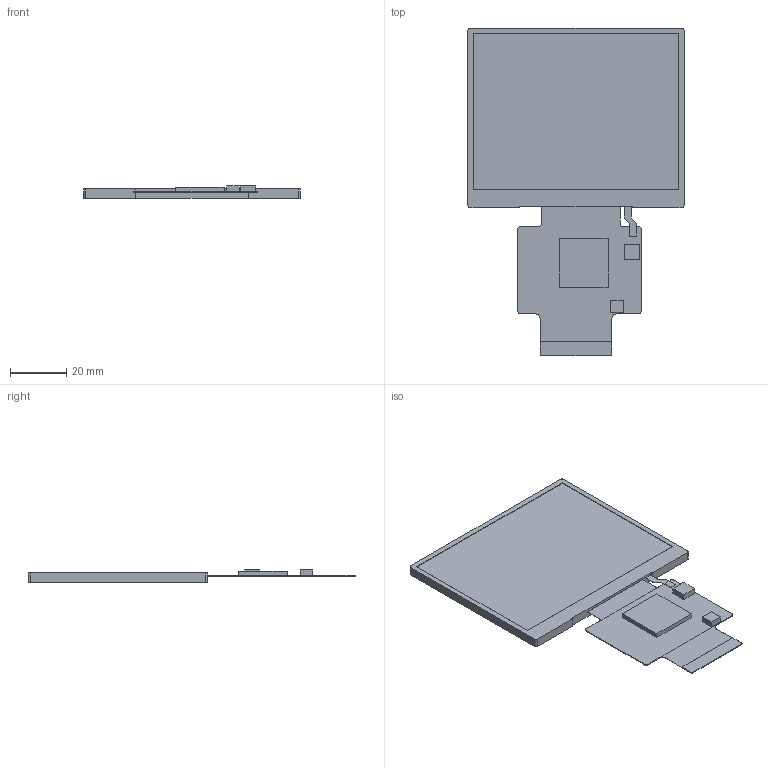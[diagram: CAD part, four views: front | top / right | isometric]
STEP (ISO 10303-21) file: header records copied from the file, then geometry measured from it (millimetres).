
FILE_DESCRIPTION((''),'2;1');
FILE_NAME('DMG32240F035_01WN','2024-09-11T',('Administrator'),(''),'PRO/ENGINEER BY PARAMETRIC TECHNOLOGY CORPORATION, 2008380','PRO/ENGINEER BY PARAMETRIC TECHNOLOGY CORPORATION, 2008380','');
FILE_SCHEMA(('CONFIG_CONTROL_DESIGN'));
Length unit declared in the file: millimetre
Products named in the file (1): DMG32240F035_01WN
Bounding box: 76.84 x 116.55 x 4.36 mm (x, y, z)
Volume: 16210.1 mm3; surface area: 14927.3 mm2
Topology: 1 solids, 1 shells, 68 faces, 536 edges, 686 vertices
Faces by surface type: plane 54, cylinder 14
Entity records: 4108 total; most frequent: DIRECTION 825, CARTESIAN_POINT 727, VECTOR 385, LINE 385, ORIENTED_EDGE 368, TRIMMED_CURVE 352, AXIS2_PLACEMENT_3D 220, EDGE_CURVE 184
